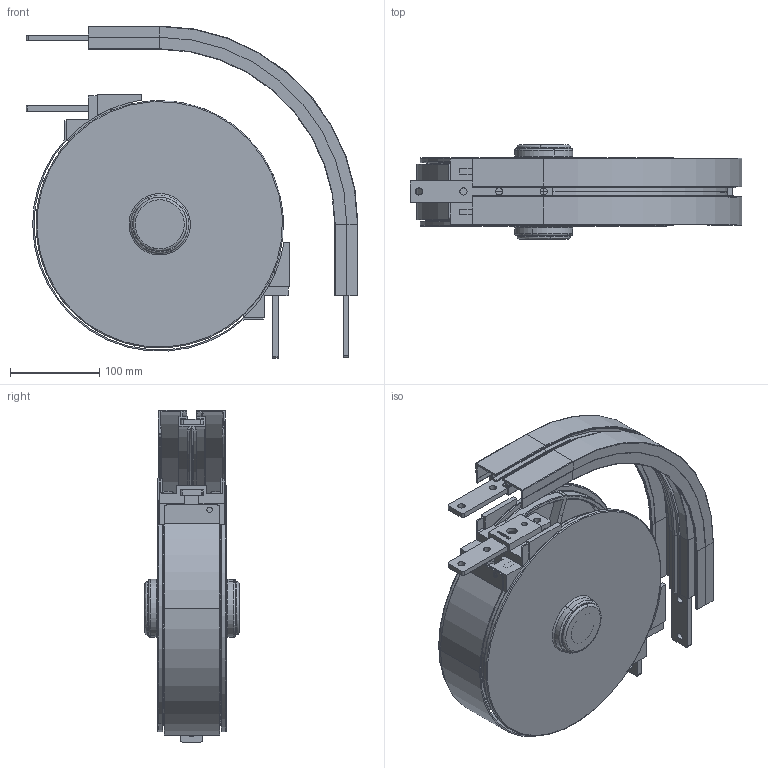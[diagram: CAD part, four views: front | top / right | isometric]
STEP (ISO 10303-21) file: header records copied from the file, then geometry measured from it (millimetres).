
FILE_DESCRIPTION (( 'STEP AP214' ), '1' );
FILE_NAME ('FCWB90R170A.STEP', '2012-04-04T09:45:36', ( 'gs' ), ( 'Microsoft' ), 'SwSTEP 2.0', 'SolidWorks 2011', '' );
FILE_SCHEMA (( 'AUTOMOTIVE_DESIGN' ));
Length unit declared in the file: millimetre
Products named in the file (12): FCWB90R170-CB_90<Brut d''usinage>; FACS-25X160-M2; WHCV-90_Default; WH278063; FAEC-WH_Default; 6004ZZ; 20 ExternalCirclip; FACS-25X140A_Default; FC-WH103001-0_Default; WHA-FM001_Default; WH08001A-3_Default; FCWB90R170A
Assembly tree (25 placements, depth 2):
  FCWB90R170A
    FCWB90R170-CB_90<Brut d''usinage>
    WHCV-90_Default
    20 ExternalCirclip  x6
    6004ZZ  x4
    WH08001A-3_Default  x2
    FACS-25X140A_Default  x2
    FC-WH103001-0_Default  x2
    FAEC-WH_Default  x2
    WHA-FM001_Default
    FACS-25X160-M2  x2
    WH278063  x2
Bounding box: 372.5 x 105.6 x 372.5 mm (x, y, z)
Volume: 1741269.4 mm3; surface area: 767218.2 mm2
Topology: 25 solids, 25 shells, 1318 faces, 3426 edges, 2224 vertices
Faces by surface type: plane 674, cylinder 456, torus 94, bspline 64, cone 30
Entity records: 27085 total; most frequent: CARTESIAN_POINT 8037, ORIENTED_EDGE 3742, DIRECTION 3731, EDGE_CURVE 1871, AXIS2_PLACEMENT_3D 1296, VERTEX_POINT 1192, LINE 1139, VECTOR 1139
